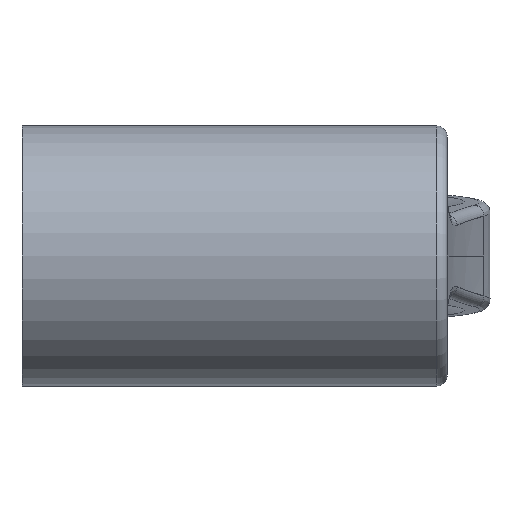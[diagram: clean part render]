
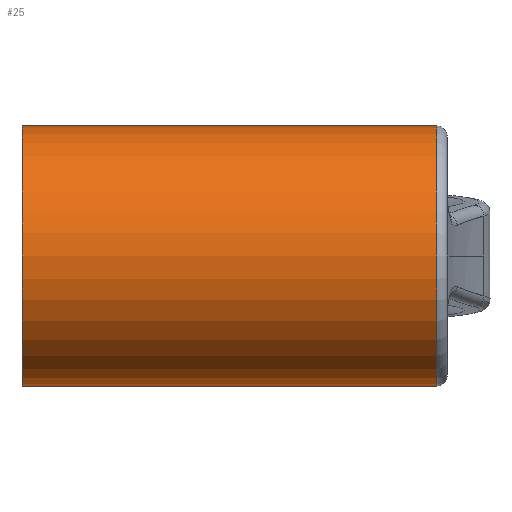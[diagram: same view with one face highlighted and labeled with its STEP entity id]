
A CAD part, front view. The second image highlights one B-rep face of the part: STEP entity #25.
In plain terms, the highlighted cylindrical face has radius 10 mm (diameter 20 mm), a partial arc.
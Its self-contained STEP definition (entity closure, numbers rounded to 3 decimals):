
#25 = ADVANCED_FACE ( 'NONE', ( #1845 ), #834, .T. ) ;
#29 = AXIS2_PLACEMENT_3D ( 'NONE', #226, #1605, #553 ) ;
#73 = CARTESIAN_POINT ( 'NONE',  ( 0., 0., 0. ) ) ;
#92 = LINE ( 'NONE', #944, #1350 ) ;
#226 = CARTESIAN_POINT ( 'NONE',  ( 31.891, 0., 0. ) ) ;
#267 = CARTESIAN_POINT ( 'NONE',  ( 0., 0., 10. ) ) ;
#410 = VERTEX_POINT ( 'NONE', #1521 ) ;
#439 = VERTEX_POINT ( 'NONE', #1150 ) ;
#459 = VECTOR ( 'NONE', #755, 1000. ) ;
#553 = DIRECTION ( 'NONE',  ( 0., 0., -1. ) ) ;
#576 = EDGE_LOOP ( 'NONE', ( #1507, #2128, #1429, #1271 ) ) ;
#686 = DIRECTION ( 'NONE',  ( 0., 0., 1. ) ) ;
#704 = CARTESIAN_POINT ( 'NONE',  ( 31.891, 0., -10. ) ) ;
#746 = EDGE_CURVE ( 'NONE', #410, #439, #1279, .T. ) ;
#755 = DIRECTION ( 'NONE',  ( -1., 0., 0. ) ) ;
#771 = EDGE_CURVE ( 'NONE', #1721, #960, #1602, .T. ) ;
#834 = CYLINDRICAL_SURFACE ( 'NONE', #1177, 10. ) ;
#855 = AXIS2_PLACEMENT_3D ( 'NONE', #73, #1758, #1052 ) ;
#944 = CARTESIAN_POINT ( 'NONE',  ( 0., 0., -10. ) ) ;
#960 = VERTEX_POINT ( 'NONE', #2200 ) ;
#964 = LINE ( 'NONE', #267, #459 ) ;
#1052 = DIRECTION ( 'NONE',  ( 0., 0., 1. ) ) ;
#1093 = DIRECTION ( 'NONE',  ( -1., 0., 0. ) ) ;
#1150 = CARTESIAN_POINT ( 'NONE',  ( 0., 0., 10. ) ) ;
#1158 = EDGE_CURVE ( 'NONE', #960, #439, #964, .T. ) ;
#1166 = DIRECTION ( 'NONE',  ( -1., 0., 0. ) ) ;
#1177 = AXIS2_PLACEMENT_3D ( 'NONE', #1527, #1166, #686 ) ;
#1271 = ORIENTED_EDGE ( 'NONE', *, *, #746, .F. ) ;
#1279 = CIRCLE ( 'NONE', #855, 10. ) ;
#1337 = EDGE_CURVE ( 'NONE', #1721, #410, #92, .T. ) ;
#1350 = VECTOR ( 'NONE', #1093, 1000. ) ;
#1429 = ORIENTED_EDGE ( 'NONE', *, *, #1158, .T. ) ;
#1507 = ORIENTED_EDGE ( 'NONE', *, *, #1337, .F. ) ;
#1521 = CARTESIAN_POINT ( 'NONE',  ( 0., 0., -10. ) ) ;
#1527 = CARTESIAN_POINT ( 'NONE',  ( 0., 0., 0. ) ) ;
#1602 = CIRCLE ( 'NONE', #29, 10. ) ;
#1605 = DIRECTION ( 'NONE',  ( -1., 0., 0. ) ) ;
#1721 = VERTEX_POINT ( 'NONE', #704 ) ;
#1758 = DIRECTION ( 'NONE',  ( -1., 0., 0. ) ) ;
#1845 = FACE_OUTER_BOUND ( 'NONE', #576, .T. ) ;
#2128 = ORIENTED_EDGE ( 'NONE', *, *, #771, .T. ) ;
#2200 = CARTESIAN_POINT ( 'NONE',  ( 31.891, 0., 10. ) ) ;
